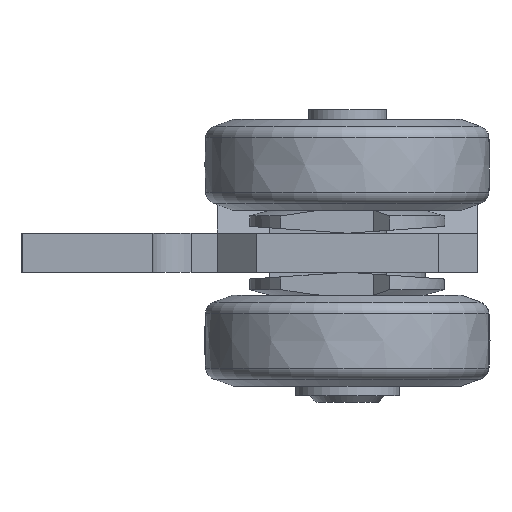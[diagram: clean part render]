
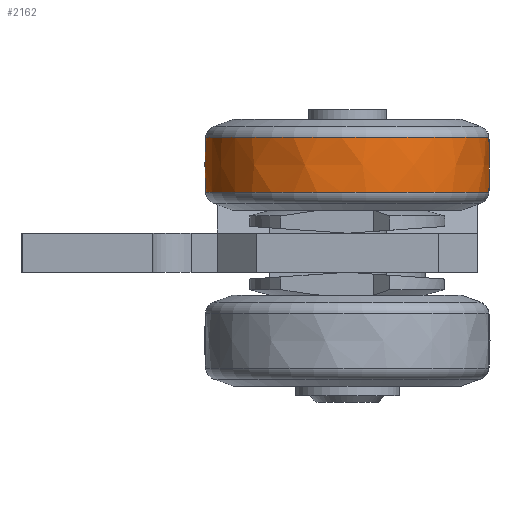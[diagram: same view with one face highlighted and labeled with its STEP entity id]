
A CAD part, left-side view. The second image highlights one B-rep face of the part: STEP entity #2162.
In plain terms, the highlighted free-form (B-spline) face has degree [2, 2] with [3, 9] control points.
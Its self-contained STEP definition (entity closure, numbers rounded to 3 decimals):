
#71=(
BOUNDED_SURFACE()
B_SPLINE_SURFACE(2,2,((#3552,#3553,#3554,#3555,#3556,#3557,#3558,#3559,
#3560),(#3561,#3562,#3563,#3564,#3565,#3566,#3567,#3568,#3569),(#3570,#3571,
#3572,#3573,#3574,#3575,#3576,#3577,#3578)),.UNSPECIFIED.,.F.,.T.,.F.)
B_SPLINE_SURFACE_WITH_KNOTS((3,3),(3,2,2,2,3),(-0.096,0.096),
(-3.142,-1.571,0.,1.571,3.142),
 .UNSPECIFIED.)
GEOMETRIC_REPRESENTATION_ITEM()
RATIONAL_B_SPLINE_SURFACE(((1.,0.707,1.,0.707,1.,
0.707,1.,0.707,1.),(0.995,0.704,
0.995,0.704,0.995,0.704,
0.995,0.704,0.995),(1.,0.707,
1.,0.707,1.,0.707,1.,0.707,1.)))
REPRESENTATION_ITEM('')
SURFACE()
);
#86=(
BOUNDED_CURVE()
B_SPLINE_CURVE(2,(#3583,#3584,#3585),.UNSPECIFIED.,.F.,.F.)
B_SPLINE_CURVE_WITH_KNOTS((3,3),(-0.096,0.096),
 .UNSPECIFIED.)
CURVE()
GEOMETRIC_REPRESENTATION_ITEM()
RATIONAL_B_SPLINE_CURVE((1.,0.995,1.))
REPRESENTATION_ITEM('')
);
#698=FACE_OUTER_BOUND('',#854,.T.);
#854=EDGE_LOOP('',(#1873,#1874,#1875,#1876,#1877,#1878));
#991=CIRCLE('',#2359,10.898);
#992=CIRCLE('',#2360,10.898);
#993=CIRCLE('',#2361,10.898);
#994=CIRCLE('',#2362,10.898);
#1154=VERTEX_POINT('',#3548);
#1155=VERTEX_POINT('',#3549);
#1156=VERTEX_POINT('',#3579);
#1157=VERTEX_POINT('',#3580);
#1411=EDGE_CURVE('',#1154,#1155,#991,.T.);
#1412=EDGE_CURVE('',#1155,#1154,#992,.T.);
#1413=EDGE_CURVE('',#1156,#1157,#993,.T.);
#1414=EDGE_CURVE('',#1157,#1156,#994,.T.);
#1415=EDGE_CURVE('',#1157,#1155,#86,.T.);
#1873=ORIENTED_EDGE('',*,*,#1413,.F.);
#1874=ORIENTED_EDGE('',*,*,#1414,.F.);
#1875=ORIENTED_EDGE('',*,*,#1415,.T.);
#1876=ORIENTED_EDGE('',*,*,#1411,.F.);
#1877=ORIENTED_EDGE('',*,*,#1412,.F.);
#1878=ORIENTED_EDGE('',*,*,#1415,.F.);
#2162=ADVANCED_FACE('',(#698),#71,.F.);
#2359=AXIS2_PLACEMENT_3D('',#3550,#2880,#2881);
#2360=AXIS2_PLACEMENT_3D('',#3551,#2882,#2883);
#2361=AXIS2_PLACEMENT_3D('',#3581,#2884,#2885);
#2362=AXIS2_PLACEMENT_3D('',#3582,#2886,#2887);
#2880=DIRECTION('center_axis',(-1.,0.,0.));
#2881=DIRECTION('ref_axis',(0.,-1.,0.));
#2882=DIRECTION('center_axis',(-1.,0.,0.));
#2883=DIRECTION('ref_axis',(0.,-1.,0.));
#2884=DIRECTION('center_axis',(1.,0.,0.));
#2885=DIRECTION('ref_axis',(0.,-1.,0.));
#2886=DIRECTION('center_axis',(1.,0.,0.));
#2887=DIRECTION('ref_axis',(0.,-1.,0.));
#3548=CARTESIAN_POINT('',(-2.112,10.898,0.));
#3549=CARTESIAN_POINT('',(-2.112,0.,10.898));
#3550=CARTESIAN_POINT('Origin',(-2.112,0.,0.));
#3551=CARTESIAN_POINT('Origin',(-2.112,0.,0.));
#3552=CARTESIAN_POINT('Ctrl Pts',(-2.112,0.,10.898));
#3553=CARTESIAN_POINT('Ctrl Pts',(-2.112,-10.898,10.898));
#3554=CARTESIAN_POINT('Ctrl Pts',(-2.112,-10.898,0.));
#3555=CARTESIAN_POINT('Ctrl Pts',(-2.112,-10.898,-10.898));
#3556=CARTESIAN_POINT('Ctrl Pts',(-2.112,0.,-10.898));
#3557=CARTESIAN_POINT('Ctrl Pts',(-2.112,10.898,-10.898));
#3558=CARTESIAN_POINT('Ctrl Pts',(-2.112,10.898,0.));
#3559=CARTESIAN_POINT('Ctrl Pts',(-2.112,10.898,10.898));
#3560=CARTESIAN_POINT('Ctrl Pts',(-2.112,0.,10.898));
#3561=CARTESIAN_POINT('Ctrl Pts',(0.,0.,11.102));
#3562=CARTESIAN_POINT('Ctrl Pts',(0.,-11.102,
11.102));
#3563=CARTESIAN_POINT('Ctrl Pts',(0.,-11.102,
0.));
#3564=CARTESIAN_POINT('Ctrl Pts',(0.,-11.102,
-11.102));
#3565=CARTESIAN_POINT('Ctrl Pts',(0.,0.,-11.102));
#3566=CARTESIAN_POINT('Ctrl Pts',(0.,11.102,
-11.102));
#3567=CARTESIAN_POINT('Ctrl Pts',(0.,11.102,
0.));
#3568=CARTESIAN_POINT('Ctrl Pts',(0.,11.102,
11.102));
#3569=CARTESIAN_POINT('Ctrl Pts',(0.,0.,11.102));
#3570=CARTESIAN_POINT('Ctrl Pts',(2.112,0.,10.898));
#3571=CARTESIAN_POINT('Ctrl Pts',(2.112,-10.898,10.898));
#3572=CARTESIAN_POINT('Ctrl Pts',(2.112,-10.898,0.));
#3573=CARTESIAN_POINT('Ctrl Pts',(2.112,-10.898,-10.898));
#3574=CARTESIAN_POINT('Ctrl Pts',(2.112,0.,-10.898));
#3575=CARTESIAN_POINT('Ctrl Pts',(2.112,10.898,-10.898));
#3576=CARTESIAN_POINT('Ctrl Pts',(2.112,10.898,0.));
#3577=CARTESIAN_POINT('Ctrl Pts',(2.112,10.898,10.898));
#3578=CARTESIAN_POINT('Ctrl Pts',(2.112,0.,10.898));
#3579=CARTESIAN_POINT('',(2.112,10.898,0.));
#3580=CARTESIAN_POINT('',(2.112,0.,10.898));
#3581=CARTESIAN_POINT('Origin',(2.112,0.,0.));
#3582=CARTESIAN_POINT('Origin',(2.112,0.,0.));
#3583=CARTESIAN_POINT('Ctrl Pts',(2.112,0.,10.898));
#3584=CARTESIAN_POINT('Ctrl Pts',(0.,0.,11.102));
#3585=CARTESIAN_POINT('Ctrl Pts',(-2.112,0.,10.898));
